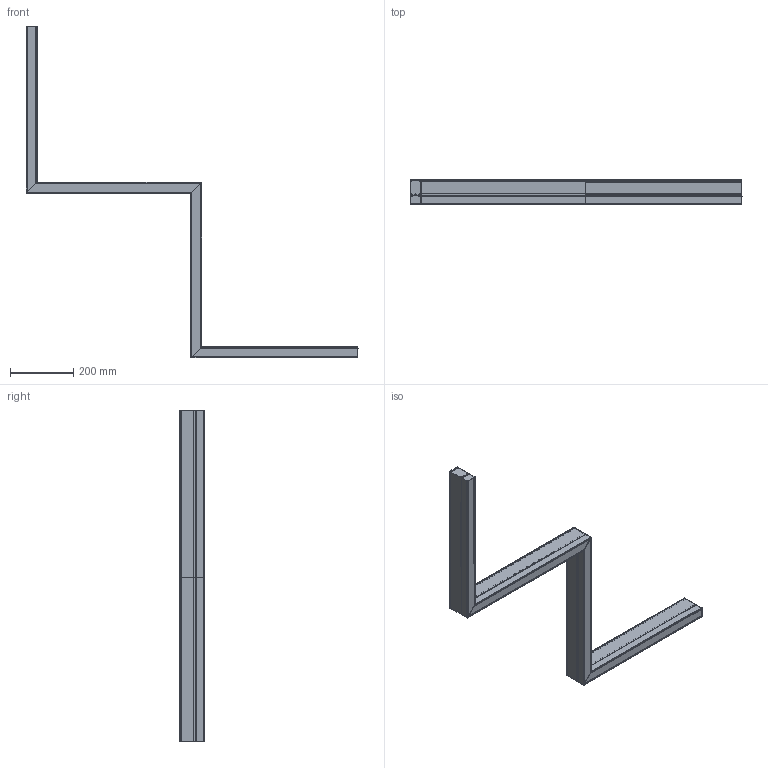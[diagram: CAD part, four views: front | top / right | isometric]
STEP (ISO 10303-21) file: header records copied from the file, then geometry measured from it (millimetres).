
FILE_DESCRIPTION(('STEP AP203'), '1');
FILE_NAME('ìàòèê Çèãçàã 40Âò', '', ('UNSPECIFIED'), ('UNSPECIFIED'), 'ASCON STEP Converter 1.6', 'ASCON Math Kernel', '');
FILE_SCHEMA(('CONFIG_CONTROL_DESIGN'));
Length unit declared in the file: millimetre
Products named in the file (7): -01
Assembly tree (8 placements, depth 3):
  (unnamed)
    (unnamed)
      (unnamed)  x2
    (unnamed)
    -01
    -01
      (unnamed)  x2
Bounding box: 1051.15 x 80 x 1051.15 mm (x, y, z)
Volume: 834725.2 mm3; surface area: 1310135.4 mm2
Topology: 15 solids, 15 shells, 855 faces, 2443 edges, 1632 vertices
Faces by surface type: cylinder 413, plane 404, bspline 16, cone 12, torus 10
Full cylindrical faces by diameter (mm): 2.9 x4, 6.3 x4, 8 x1, 10 x2, 14 x2
Entity records: 27117 total; most frequent: CARTESIAN_POINT 6770, ORIENTED_EDGE 4596, DIRECTION 3592, EDGE_CURVE 2298, VERTEX_POINT 1542, LINE 1440, VECTOR 1440, AXIS2_PLACEMENT_3D 1076
